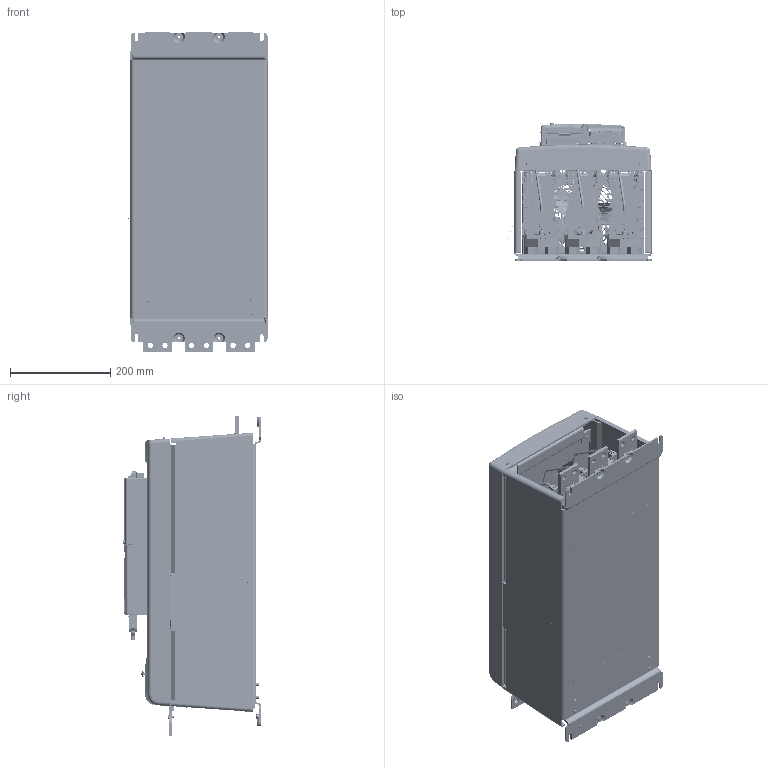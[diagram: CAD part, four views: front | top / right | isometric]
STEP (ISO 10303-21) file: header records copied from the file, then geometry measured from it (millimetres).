
FILE_DESCRIPTION((''),'2;1');
FILE_NAME('10000300728_ASM','2013-01-09T',('RGRushme'),('Rockwell Automation'),'PRO/ENGINEER BY PARAMETRIC TECHNOLOGY CORPORATION, 2010140','PRO/ENGINEER BY PARAMETRIC TECHNOLOGY CORPORATION, 2010140','');
FILE_SCHEMA(('CONFIG_CONTROL_DESIGN'));
Length unit declared in the file: inch
Products named in the file (162): 10000251537; 28033-282-02; M5PEMNUT; 10000251538_ASM; 22401-603-02; 10000299855_ASM; 40382-151; 40391-M6059; 40382-152-51_ASM; 10000205402; 40382-145; 40382-152-52_ASM; 10000241918; 10000243949; 10000243950_ASM; 10000241922; 10000223242; 10000223244; 28110-001-04; 28355-104; 10000081232; 10000304672; 10000304673; 10000081229; 10000304674_ASM; 10000243951_ASM; 10000242529; 10000233588; 10000227360; 28169-101-26; 10000224980; 10000228948; 10000229175_ASM; 10000229961; 10000234455; 10000229962_ASM; 41391-41391116; 41391-HALLSENSOR; 41391-2211210403; 41391-HALLCAP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
Assembly tree (421 placements, depth 11):
  10000300728_ASM
    10000300489_ASM
      10000300488_ASM
        10000299860_ASM
          10000299859_ASM
            10000299858_ASM
              10000299855_ASM
                10000251538_ASM
                  10000251537
                  28033-282-02  x13
                  M5PEMNUT  x4
                22401-603-02  x12
              10000299857_ASM  x3
                10000243951_ASM
                  40382-152-51_ASM
                    40391-M6059  x2
                  10000205402  x2
                  40382-152-52_ASM  x2
                  10000241918
                  10000243950_ASM
                    10000243949  x4
                  10000241922
                  10000223242
                  10000223244
                  28110-001-04  x2
                  28355-104  x2
                  10000304674_ASM  x2
                10000299856_ASM
                  10000242529
                  10000233609_ASM
                    28169-101-26  x2
                    10000229962_ASM  x2
                40382-164
                40382-2816814333
                10000306130
                10000305985
              28168-138-PRT  x12
            10000319048_ASM
              10000315409
              0832PEMNUT  x6
              M4PEMNUT  x2
            10000284093
            10000306745_ASM
              10000306744
              0500050-109
              0500050-110
            10000132477_ASM
              10000132408
              10000117004
              10000121175
            40391-2211226101  x3
            10000307536_ASM
              10000307535
              0500050-109
              0500050-110
            10000307544_ASM
              10000307543
              0500050-109
              0500050-110
            28158-096-01  x2
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Bounding box: 302.18 x 275.56 x 638.53 mm (x, y, z)
Volume: 8986473.9 mm3; surface area: 4739825.8 mm2
Topology: 782 solids, 801 shells, 48124 faces, 125323 edges, 80418 vertices
Faces by surface type: plane 28816, cylinder 13903, bspline 2111, cone 1562, torus 1321, extrusion 206, sphere 201, revolution 4
Entity records: 591324 total; most frequent: CARTESIAN_POINT 153136, ORIENTED_EDGE 93630, DIRECTION 84937, EDGE_CURVE 46821, VECTOR 32835, LINE 32629, VERTEX_POINT 30305, AXIS2_PLACEMENT_3D 26050
